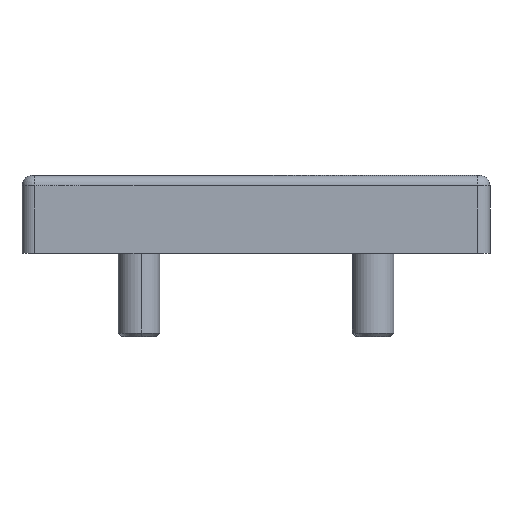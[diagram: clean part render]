
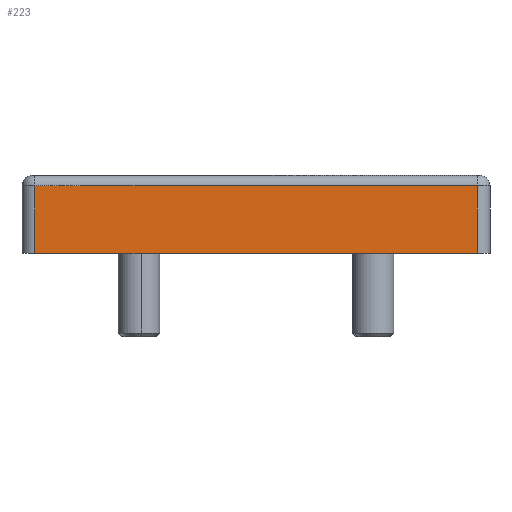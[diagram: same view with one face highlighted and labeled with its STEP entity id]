
A CAD part, left-side view. The second image highlights one B-rep face of the part: STEP entity #223.
In plain terms, the highlighted planar face has unit normal (-1, 0, 0).
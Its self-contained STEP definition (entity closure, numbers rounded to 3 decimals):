
#223 = ADVANCED_FACE ( 'NONE', ( #3237 ), #3299, .T. ) ;
#245 = ORIENTED_EDGE ( 'NONE', *, *, #5044, .T. ) ;
#333 = CARTESIAN_POINT ( 'NONE',  ( -46.202, 40.989, 0. ) ) ;
#722 = AXIS2_PLACEMENT_3D ( 'NONE', #4784, #6285, #1823 ) ;
#744 = EDGE_CURVE ( 'NONE', #2872, #3006, #788, .T. ) ;
#788 = LINE ( 'NONE', #2255, #4595 ) ;
#808 = EDGE_CURVE ( 'NONE', #6191, #6336, #6257, .T. ) ;
#994 = EDGE_CURVE ( 'NONE', #6336, #2872, #2077, .T. ) ;
#1823 = DIRECTION ( 'NONE',  ( 0., -1., 0. ) ) ;
#1924 = DIRECTION ( 'NONE',  ( 0., 0., -1. ) ) ;
#2077 = LINE ( 'NONE', #4186, #3450 ) ;
#2168 = CARTESIAN_POINT ( 'NONE',  ( -46.202, 40.989, 13. ) ) ;
#2255 = CARTESIAN_POINT ( 'NONE',  ( -46.202, -44.011, 0. ) ) ;
#2630 = DIRECTION ( 'NONE',  ( 0., 0., 1. ) ) ;
#2872 = VERTEX_POINT ( 'NONE', #3304 ) ;
#3005 = ORIENTED_EDGE ( 'NONE', *, *, #994, .T. ) ;
#3006 = VERTEX_POINT ( 'NONE', #5526 ) ;
#3160 = DIRECTION ( 'NONE',  ( 0., 1., 0. ) ) ;
#3237 = FACE_OUTER_BOUND ( 'NONE', #4603, .T. ) ;
#3299 = PLANE ( 'NONE',  #722 ) ;
#3304 = CARTESIAN_POINT ( 'NONE',  ( -46.202, -44.011, 0. ) ) ;
#3386 = ORIENTED_EDGE ( 'NONE', *, *, #808, .T. ) ;
#3450 = VECTOR ( 'NONE', #6160, 1000. ) ;
#4186 = CARTESIAN_POINT ( 'NONE',  ( -46.202, 43.489, 0. ) ) ;
#4284 = VECTOR ( 'NONE', #1924, 1000. ) ;
#4595 = VECTOR ( 'NONE', #2630, 1000. ) ;
#4603 = EDGE_LOOP ( 'NONE', ( #4903, #245, #3386, #3005 ) ) ;
#4784 = CARTESIAN_POINT ( 'NONE',  ( -46.202, 43.489, 0. ) ) ;
#4903 = ORIENTED_EDGE ( 'NONE', *, *, #744, .T. ) ;
#5044 = EDGE_CURVE ( 'NONE', #3006, #6191, #5394, .T. ) ;
#5371 = CARTESIAN_POINT ( 'NONE',  ( -46.202, 40.989, 0. ) ) ;
#5394 = LINE ( 'NONE', #6174, #5749 ) ;
#5526 = CARTESIAN_POINT ( 'NONE',  ( -46.202, -44.011, 13. ) ) ;
#5749 = VECTOR ( 'NONE', #3160, 1000. ) ;
#6160 = DIRECTION ( 'NONE',  ( 0., -1., 0. ) ) ;
#6174 = CARTESIAN_POINT ( 'NONE',  ( -46.202, 43.489, 13. ) ) ;
#6191 = VERTEX_POINT ( 'NONE', #2168 ) ;
#6257 = LINE ( 'NONE', #5371, #4284 ) ;
#6285 = DIRECTION ( 'NONE',  ( -1., 0., 0. ) ) ;
#6336 = VERTEX_POINT ( 'NONE', #333 ) ;
